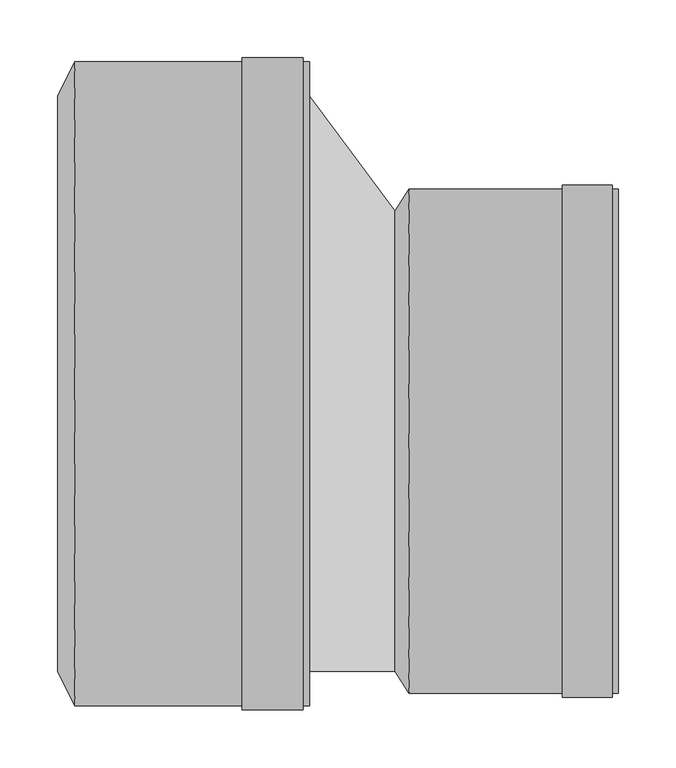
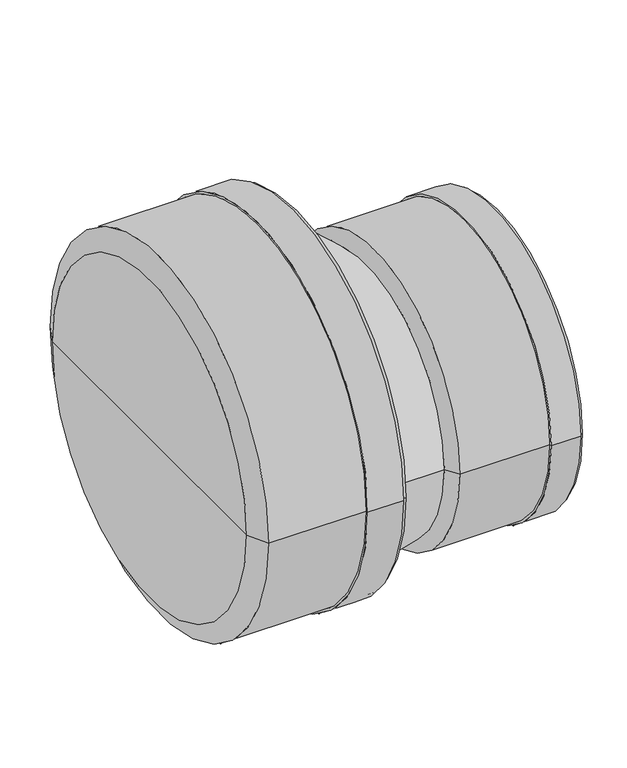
"""IFC4 building model written with IfcOpenShell, lengths in millimetres: pipe fitting geometry, pf_KGR_red-nes : pf_KGR_red-nes."""

from ifc_helpers import new_model, si_unit, frame, origin, place, context, project, spatial, polyline, circle_curve, source, transform, mapped, element, save
from ifc_brep_helpers import plane_surface, cylinder_surface, revolved_surface, spline_surface, advanced_brep


def pipe_fitting_910813cb(model_context):
    return source(origin(), model_context, "Body", "AdvancedBrep", [
        advanced_brep(
        [(-219.0, -250.0, 0.0), (-219.0, 250.0, 0.0), (-203.9, 280.1, 0.0), (-203.9, -280.1, 0.0), (-219.0, 0.0, 0.0), (0.0, -280.1, 0.0), (0.0, 280.1, 0.0), (0.0, 250.0, 0.0), (0.0, -250.0, 0.0), (-5.8, -280.1, 0.0), (-5.8, 280.1, 0.0), (-5.8, -283.5, 0.0), (-5.8, 283.5, 0.0), (-58.7, -283.5, 0.0), (-58.7, 283.5, 0.0), (-58.7, -280.1, 0.0), (-58.7, 280.1, 0.0), (-203.9, -250.0, 0.0), (-203.9, 250.0, 0.0), (-203.9, 0.0, 0.0)],
        [
            (0, 1, circle_curve(frame((-219.0, 0.0, 0.0), z_axis=(1.0, 0.0, 0.0), x_axis=(0.0, 1.0, 0.0)), 250.0)),
            (1, 2),
            (2, 3, circle_curve(frame((-203.9, 0.0, 0.0), z_axis=(-1.0, 0.0, 0.0), x_axis=(0.0, 1.0, 0.0)), 280.1)),
            (3, 0),
            (1, 0, circle_curve(frame((-219.0, 0.0, 0.0), z_axis=(1.0, 0.0, 0.0), x_axis=(0.0, 1.0, 0.0)), 250.0)),
            (3, 2, circle_curve(frame((-203.9, 0.0, 0.0), z_axis=(-1.0, 0.0, 0.0), x_axis=(0.0, 1.0, 0.0)), 280.1)),
            (4, 1),
            (0, 4),
            (5, 6, circle_curve(frame((0.0, 0.0, 0.0), z_axis=(1.0, 0.0, 0.0), x_axis=(0.0, 1.0, 0.0)), 280.1)),
            (6, 7),
            (7, 8, circle_curve(frame((0.0, 0.0, 0.0), z_axis=(-1.0, 0.0, 0.0), x_axis=(0.0, 1.0, 0.0)), 250.0)),
            (8, 5),
            (6, 5, circle_curve(frame((0.0, 0.0, 0.0), z_axis=(1.0, 0.0, 0.0), x_axis=(0.0, 1.0, 0.0)), 280.1)),
            (8, 7, circle_curve(frame((0.0, 0.0, 0.0), z_axis=(-1.0, 0.0, 0.0), x_axis=(0.0, 1.0, 0.0)), 250.0)),
            (9, 10, circle_curve(frame((-5.8, 0.0, 0.0), z_axis=(1.0, 0.0, 0.0), x_axis=(0.0, 1.0, 0.0)), 280.1)),
            (10, 6),
            (5, 9),
            (10, 9, circle_curve(frame((-5.8, 0.0, 0.0), z_axis=(1.0, 0.0, 0.0), x_axis=(0.0, 1.0, 0.0)), 280.1)),
            (11, 12, circle_curve(frame((-5.8, 0.0, 0.0), z_axis=(1.0, 0.0, 0.0), x_axis=(0.0, 1.0, 0.0)), 283.5)),
            (12, 10),
            (9, 11),
            (12, 11, circle_curve(frame((-5.8, 0.0, 0.0), z_axis=(1.0, 0.0, 0.0), x_axis=(0.0, 1.0, 0.0)), 283.5)),
            (13, 14, circle_curve(frame((-58.7, 0.0, 0.0), z_axis=(1.0, 0.0, 0.0), x_axis=(0.0, 1.0, 0.0)), 283.5)),
            (14, 12),
            (11, 13),
            (14, 13, circle_curve(frame((-58.7, 0.0, 0.0), z_axis=(1.0, 0.0, 0.0), x_axis=(0.0, 1.0, 0.0)), 283.5)),
            (15, 16, circle_curve(frame((-58.7, 0.0, 0.0), z_axis=(1.0, 0.0, 0.0), x_axis=(0.0, 1.0, 0.0)), 280.1)),
            (16, 14),
            (13, 15),
            (16, 15, circle_curve(frame((-58.7, 0.0, 0.0), z_axis=(1.0, 0.0, 0.0), x_axis=(0.0, 1.0, 0.0)), 280.1)),
            (2, 16),
            (15, 3),
            (17, 18, circle_curve(frame((-203.9, 0.0, 0.0), z_axis=(1.0, 0.0, 0.0), x_axis=(0.0, 1.0, 0.0)), 250.0)),
            (18, 19),
            (19, 17),
            (18, 17, circle_curve(frame((-203.9, 0.0, 0.0), z_axis=(1.0, 0.0, 0.0), x_axis=(0.0, 1.0, 0.0)), 250.0)),
            (7, 18),
            (17, 8),
        ],
        [
            revolved_surface(polyline([(-203.9, 280.1, 0.0), (-219.0, 250.0, 0.0)]), (-219.0, 0.0, 0.0), (-1.0, 0.0, 0.0)),
            plane_surface(frame((-219.0, 0.0, 0.0), z_axis=(-1.0, 0.0, 0.0), x_axis=(0.0, 1.0, 0.0))),
            plane_surface(frame((0.0, 0.0, 0.0), z_axis=(1.0, 0.0, 0.0), x_axis=(0.0, 1.0, 0.0))),
            cylinder_surface(frame((-219.0, 0.0, 0.0), z_axis=(-1.0, 0.0, 0.0), x_axis=(0.0, 1.0, 0.0)), 280.1),
            plane_surface(frame((-5.8, 0.0, 0.0), z_axis=(1.0, 0.0, 0.0), x_axis=(0.0, 1.0, 0.0))),
            cylinder_surface(frame((-219.0, 0.0, 0.0), z_axis=(-1.0, 0.0, 0.0), x_axis=(0.0, 1.0, 0.0)), 283.5),
            plane_surface(frame((-58.7, 0.0, 0.0), z_axis=(-1.0, 0.0, 0.0), x_axis=(0.0, 1.0, 0.0))),
            plane_surface(frame((-203.9, 0.0, 0.0), z_axis=(1.0, 0.0, 0.0), x_axis=(0.0, 1.0, 0.0))),
            revolved_surface(polyline([(-203.9, 250.0, 0.0), (0.0, 250.0, 0.0)]), (-219.0, 0.0, 0.0), (-1.0, 0.0, 0.0)),
        ],
        [
            (0, [[1, 2, 3, 4]]),
            (0, [[5, -4, 6, -2]]),
            (1, [[7, -1, 8]]),
            (1, [[-8, -5, -7]]),
            (2, [[9, 10, 11, 12]]),
            (2, [[13, -12, 14, -10]]),
            (3, [[15, 16, -9, 17]]),
            (3, [[18, -17, -13, -16]]),
            (4, [[19, 20, -15, 21]]),
            (4, [[22, -21, -18, -20]]),
            (5, [[23, 24, -19, 25]]),
            (5, [[26, -25, -22, -24]]),
            (6, [[27, 28, -23, 29]]),
            (6, [[30, -29, -26, -28]]),
            (3, [[-3, 31, -27, 32]]),
            (3, [[-6, -32, -30, -31]]),
            (7, [[33, 34, 35]]),
            (7, [[36, -35, -34]]),
            (8, [[-11, 37, -33, 38]]),
            (8, [[-14, -38, -36, -37]]),
        ],
    ),
        advanced_brep(
        [(74.25, -250.0, 0.0), (74.25, 150.0, 0.0), (86.45, 169.1, 0.0), (86.45, -269.1, 0.0), (74.25, -50.0, 0.0), (268.25, -269.1, 0.0), (268.25, 169.1, 0.0), (268.25, 150.0, 0.0), (268.25, -250.0, 0.0), (263.45, -269.1, 0.0), (263.45, 169.1, 0.0), (263.45, -272.5, 0.0), (263.45, 172.5, 0.0), (219.85, -272.5, 0.0), (219.85, 172.5, 0.0), (219.85, -269.1, 0.0), (219.85, 169.1, 0.0), (86.45, -250.0, 0.0), (86.45, 150.0, 0.0), (86.45, -50.0, 0.0)],
        [
            (0, 1, circle_curve(frame((74.25, -50.0, 0.0), z_axis=(1.0, 0.0, 0.0), x_axis=(0.0, 1.0, 0.0)), 200.0)),
            (1, 2),
            (2, 3, circle_curve(frame((86.45, -50.0, 0.0), z_axis=(-1.0, 0.0, 0.0), x_axis=(0.0, 1.0, 0.0)), 219.1)),
            (3, 0),
            (1, 0, circle_curve(frame((74.25, -50.0, 0.0), z_axis=(1.0, 0.0, 0.0), x_axis=(0.0, 1.0, 0.0)), 200.0)),
            (3, 2, circle_curve(frame((86.45, -50.0, 0.0), z_axis=(-1.0, 0.0, 0.0), x_axis=(0.0, 1.0, 0.0)), 219.1)),
            (4, 1),
            (0, 4),
            (5, 6, circle_curve(frame((268.25, -50.0, 0.0), z_axis=(1.0, 0.0, 0.0), x_axis=(0.0, 1.0, 0.0)), 219.1)),
            (6, 7),
            (7, 8, circle_curve(frame((268.25, -50.0, 0.0), z_axis=(-1.0, 0.0, 0.0), x_axis=(0.0, 1.0, 0.0)), 200.0)),
            (8, 5),
            (6, 5, circle_curve(frame((268.25, -50.0, 0.0), z_axis=(1.0, 0.0, 0.0), x_axis=(0.0, 1.0, 0.0)), 219.1)),
            (8, 7, circle_curve(frame((268.25, -50.0, 0.0), z_axis=(-1.0, 0.0, 0.0), x_axis=(0.0, 1.0, 0.0)), 200.0)),
            (9, 10, circle_curve(frame((263.45, -50.0, 0.0), z_axis=(1.0, 0.0, 0.0), x_axis=(0.0, 1.0, 0.0)), 219.1)),
            (10, 6),
            (5, 9),
            (10, 9, circle_curve(frame((263.45, -50.0, 0.0), z_axis=(1.0, 0.0, 0.0), x_axis=(0.0, 1.0, 0.0)), 219.1)),
            (11, 12, circle_curve(frame((263.45, -50.0, 0.0), z_axis=(1.0, 0.0, 0.0), x_axis=(0.0, 1.0, 0.0)), 222.5)),
            (12, 10),
            (9, 11),
            (12, 11, circle_curve(frame((263.45, -50.0, 0.0), z_axis=(1.0, 0.0, 0.0), x_axis=(0.0, 1.0, 0.0)), 222.5)),
            (13, 14, circle_curve(frame((219.85, -50.0, 0.0), z_axis=(1.0, 0.0, 0.0), x_axis=(0.0, 1.0, 0.0)), 222.5)),
            (14, 12),
            (11, 13),
            (14, 13, circle_curve(frame((219.85, -50.0, 0.0), z_axis=(1.0, 0.0, 0.0), x_axis=(0.0, 1.0, 0.0)), 222.5)),
            (15, 16, circle_curve(frame((219.85, -50.0, 0.0), z_axis=(1.0, 0.0, 0.0), x_axis=(0.0, 1.0, 0.0)), 219.1)),
            (16, 14),
            (13, 15),
            (16, 15, circle_curve(frame((219.85, -50.0, 0.0), z_axis=(1.0, 0.0, 0.0), x_axis=(0.0, 1.0, 0.0)), 219.1)),
            (2, 16),
            (15, 3),
            (17, 18, circle_curve(frame((86.45, -50.0, 0.0), z_axis=(1.0, 0.0, 0.0), x_axis=(0.0, 1.0, 0.0)), 200.0)),
            (18, 19),
            (19, 17),
            (18, 17, circle_curve(frame((86.45, -50.0, 0.0), z_axis=(1.0, 0.0, 0.0), x_axis=(0.0, 1.0, 0.0)), 200.0)),
            (7, 18),
            (17, 8),
        ],
        [
            revolved_surface(polyline([(86.45, 169.1, 0.0), (74.25, 150.0, 0.0)]), (74.25, -50.0, 0.0), (-1.0, 0.0, 0.0)),
            plane_surface(frame((74.25, -50.0, 0.0), z_axis=(-1.0, 0.0, 0.0), x_axis=(0.0, 1.0, 0.0))),
            plane_surface(frame((268.25, -50.0, 0.0), z_axis=(1.0, 0.0, 0.0), x_axis=(0.0, 1.0, 0.0))),
            cylinder_surface(frame((74.25, -50.0, 0.0), z_axis=(-1.0, 0.0, 0.0), x_axis=(0.0, 1.0, 0.0)), 219.1),
            plane_surface(frame((263.45, -50.0, 0.0), z_axis=(1.0, 0.0, 0.0), x_axis=(0.0, 1.0, 0.0))),
            cylinder_surface(frame((74.25, -50.0, 0.0), z_axis=(-1.0, 0.0, 0.0), x_axis=(0.0, 1.0, 0.0)), 222.5),
            plane_surface(frame((219.85, -50.0, 0.0), z_axis=(-1.0, 0.0, 0.0), x_axis=(0.0, 1.0, 0.0))),
            plane_surface(frame((86.45, -50.0, 0.0), z_axis=(1.0, 0.0, 0.0), x_axis=(0.0, 1.0, 0.0))),
            revolved_surface(polyline([(86.45, 150.0, 0.0), (268.25, 150.0, 0.0)]), (74.25, -50.0, 0.0), (-1.0, 0.0, 0.0)),
        ],
        [
            (0, [[1, 2, 3, 4]]),
            (0, [[5, -4, 6, -2]]),
            (1, [[7, -1, 8]]),
            (1, [[-8, -5, -7]]),
            (2, [[9, 10, 11, 12]]),
            (2, [[13, -12, 14, -10]]),
            (3, [[15, 16, -9, 17]]),
            (3, [[18, -17, -13, -16]]),
            (4, [[19, 20, -15, 21]]),
            (4, [[22, -21, -18, -20]]),
            (5, [[23, 24, -19, 25]]),
            (5, [[26, -25, -22, -24]]),
            (6, [[27, 28, -23, 29]]),
            (6, [[30, -29, -26, -28]]),
            (3, [[-3, 31, -27, 32]]),
            (3, [[-6, -32, -30, -31]]),
            (7, [[33, 34, 35]]),
            (7, [[36, -35, -34]]),
            (8, [[-11, 37, -33, 38]]),
            (8, [[-14, -38, -36, -37]]),
        ],
    ),
        advanced_brep(
        [(74.25, -250.0, 0.0), (74.25, 150.0, 0.0), (0.0, -250.0, 0.0), (0.0, 250.0, 0.0)],
        [
            (0, 1, circle_curve(frame((74.25, -50.0, 0.0), z_axis=(1.0, 0.0, 0.0), x_axis=(0.0, 1.0, 0.0)), 200.0)),
            (1, 0, circle_curve(frame((74.25, -50.0, 0.0), z_axis=(1.0, 0.0, 0.0), x_axis=(0.0, 1.0, 0.0)), 200.0)),
            (2, 3, circle_curve(frame((0.0, 0.0, 0.0), z_axis=(-1.0, 0.0, 0.0), x_axis=(0.0, 1.0, 0.0)), 250.0)),
            (3, 2, circle_curve(frame((0.0, 0.0, 0.0), z_axis=(-1.0, 0.0, 0.0), x_axis=(0.0, 1.0, 0.0)), 250.0)),
            (3, 1),
            (0, 2),
        ],
        [
            plane_surface(frame((74.25, -50.0, 0.0), z_axis=(1.0, 0.0, 0.0), x_axis=(0.0, 0.0, -1.0))),
            plane_surface(frame((0.0, 0.0, 0.0), z_axis=(-1.0, 0.0, 0.0), x_axis=(0.0, 0.0, -1.0))),
            spline_surface(2, 1, [[(0.0, -250.0, 0.0), (74.25, -250.0, 0.0)], [(0.0, -250.0, -250.0), (74.25, -250.0, -200.0)], [(0.0, 0.0, -250.0), (74.25, -50.0, -200.0)], [(0.0, 250.0, -250.0), (74.25, 150.0, -200.0)], [(0.0, 250.0, 0.0), (74.25, 150.0, 0.0)]], [3, 2, 3], [2, 2], [0.0, 1.0, 2.0], [0.0, 1.0], weights=[[1.0, 1.0], [0.7071067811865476, 0.7071067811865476], [1.0, 1.0], [0.7071067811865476, 0.7071067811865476], [1.0, 1.0]]),
            spline_surface(2, 1, [[(0.0, 250.0, 0.0), (74.25, 150.0, 0.0)], [(0.0, 250.0, 250.0), (74.25, 150.0, 200.0)], [(0.0, 0.0, 250.0), (74.25, -50.0, 200.0)], [(0.0, -250.0, 250.0), (74.25, -250.0, 200.0)], [(0.0, -250.0, 0.0), (74.25, -250.0, 0.0)]], [3, 2, 3], [2, 2], [0.0, 1.0, 2.0], [0.0, 1.0], weights=[[1.0, 1.0], [0.7071067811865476, 0.7071067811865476], [1.0, 1.0], [0.7071067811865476, 0.7071067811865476], [1.0, 1.0]]),
        ],
        [
            (0, [[1, 2]]),
            (1, [[3, 4]]),
            (2, [[-4, 5, -1, 6]]),
            (3, [[-3, -6, -2, -5]]),
        ],
    ),
    ])


if __name__ == "__main__":
    model = new_model("IFC4")
    model_context = context("Model", 3, world=origin())
    ifc_project = project(units=[si_unit("LENGTHUNIT", "METRE", prefix="MILLI")], contexts=[model_context])
    site = spatial("IfcSite", under=ifc_project)
    building = spatial("IfcBuilding", under=site)
    placement = place(None, origin())
    pipe_fitting_shape = pipe_fitting_910813cb(model_context)
    element("IfcPipeFitting", 1, ObjectType="pf_KGR_red-nes : pf_KGR_red-nes", at=placement, inside=building, context=model_context, shape_type="MappedRepresentation", body=[
        mapped(pipe_fitting_shape, transform((0.0, 0.0, 0.0), x_axis=(1.0, 0.0, 0.0), y_axis=(0.0, 1.0, 0.0), z_axis=(0.0, 0.0, 1.0))),
    ])
    save(model, "model.ifc")
